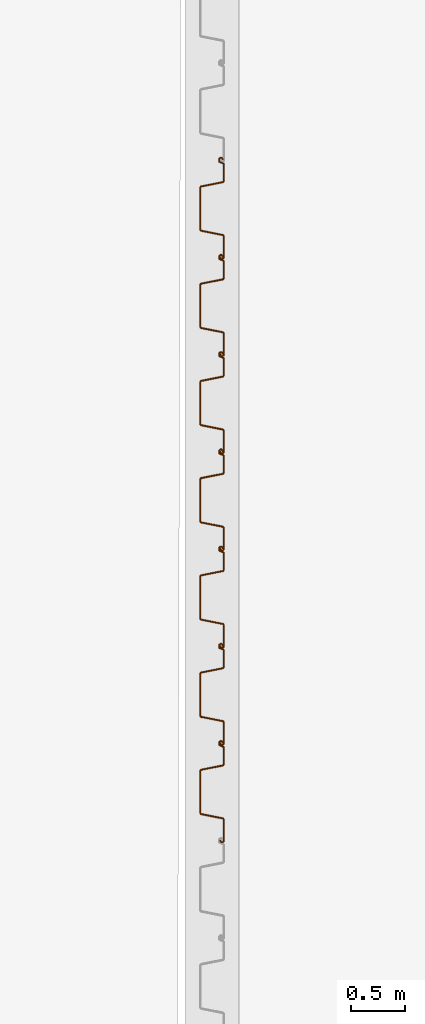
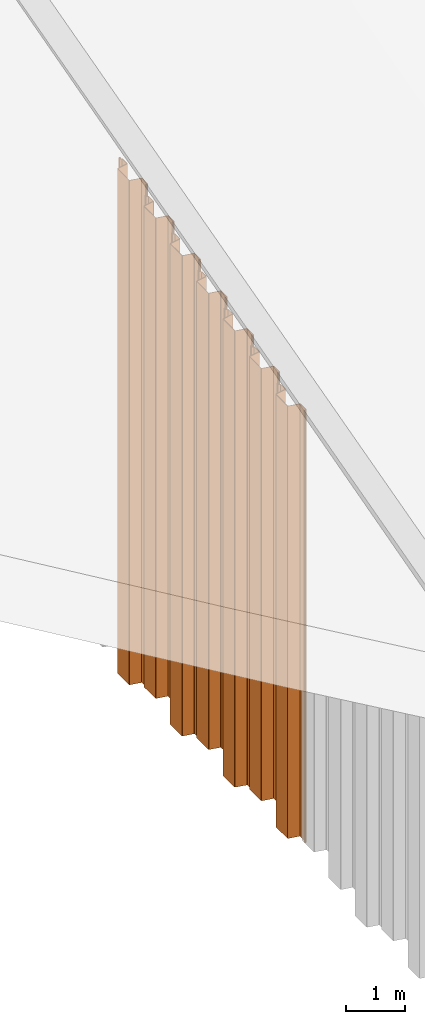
# One storey, part 8 of 32: 7 proxies.
"""IFC2X3 building model written with IfcOpenShell, lengths in millimetres."""

from ifc_helpers import new_model, entity, si_unit, converted_unit, derived_unit, direction, frame, frame_2d, origin, place, context, subcontext, project, spatial, polyline, circle_curve, parameter, trimmed, segment, composite_curve, outline, extrude, source, transform, mapped, type_object, type_shapes, element, save


model = new_model("IFC2X3")

# Units and contexts
model_context = context("Model", 3, precision=0.01, world=origin(), true_north=direction((6.12303176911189e-17, 1.0)))
body_context = subcontext(model_context, "Body", "Model", "MODEL_VIEW")
ifc_project = project(units=[si_unit("LENGTHUNIT", "METRE", prefix="MILLI"), si_unit("AREAUNIT", "SQUARE_METRE"), si_unit("VOLUMEUNIT", "CUBIC_METRE"), converted_unit("PLANEANGLEUNIT", "DEGREE", entity("IfcRatioMeasure", 0.0174532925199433), si_unit("PLANEANGLEUNIT", "RADIAN"), dimensions=[0, 0, 0, 0, 0, 0, 0]), si_unit("MASSUNIT", "GRAM", prefix="KILO"), derived_unit("MASSDENSITYUNIT", [(si_unit("MASSUNIT", "GRAM", prefix="KILO"), 1), (si_unit("LENGTHUNIT", "METRE"), -3)]), si_unit("TIMEUNIT", "SECOND"), si_unit("FREQUENCYUNIT", "HERTZ"), si_unit("THERMODYNAMICTEMPERATUREUNIT", "DEGREE_CELSIUS"), derived_unit("THERMALTRANSMITTANCEUNIT", [(si_unit("MASSUNIT", "GRAM", prefix="KILO"), 1), (si_unit("THERMODYNAMICTEMPERATUREUNIT", "KELVIN"), -1), (si_unit("TIMEUNIT", "SECOND"), -3)]), derived_unit("VOLUMETRICFLOWRATEUNIT", [(si_unit("LENGTHUNIT", "METRE"), 3), (si_unit("TIMEUNIT", "SECOND"), -1)]), si_unit("ELECTRICCURRENTUNIT", "AMPERE"), si_unit("ELECTRICVOLTAGEUNIT", "VOLT"), si_unit("POWERUNIT", "WATT"), si_unit("FORCEUNIT", "NEWTON", prefix="KILO"), si_unit("ILLUMINANCEUNIT", "LUX"), si_unit("LUMINOUSFLUXUNIT", "LUMEN"), si_unit("LUMINOUSINTENSITYUNIT", "CANDELA"), derived_unit("USERDEFINED", [(si_unit("MASSUNIT", "GRAM", prefix="KILO"), -1), (si_unit("LENGTHUNIT", "METRE"), -2), (si_unit("TIMEUNIT", "SECOND"), 3), (si_unit("LUMINOUSFLUXUNIT", "LUMEN"), 1)]), derived_unit("LINEARVELOCITYUNIT", [(si_unit("LENGTHUNIT", "METRE"), 1), (si_unit("TIMEUNIT", "SECOND"), -1)]), si_unit("PRESSUREUNIT", "PASCAL"), derived_unit("USERDEFINED", [(si_unit("LENGTHUNIT", "METRE"), -2), (si_unit("MASSUNIT", "GRAM", prefix="KILO"), 1), (si_unit("TIMEUNIT", "SECOND"), -2)])], contexts=[model_context])

# Site, building, storey
site_placement = place(None, origin())
site = spatial("IfcSite", under=ifc_project, at=site_placement, Name="Default", CompositionType="ELEMENT")
building_placement = place(site_placement, origin())
building = spatial("IfcBuilding", under=site, at=building_placement, CompositionType="ELEMENT")
storey_placement = place(building_placement, origin())
storey = spatial("IfcBuildingStorey", under=building, at=storey_placement, Name="矢板", CompositionType="ELEMENT", Elevation=0.0)

# Proxies
building_element_proxy_type_1 = type_object("IfcBuildingElementProxyType", Name="鋼矢板10H型", PredefinedType="NOTDEFINED")
shared_shape_1 = source(origin(), body_context, "Body", "SweptSolid", [
    extrude(outline(composite_curve([segment(trimmed(circle_curve(frame_2d((85.3662976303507, 306.644432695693), x_axis=(0.422618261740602, 0.906307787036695)), 13.885714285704), [parameter(24.9999999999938)], [parameter(90.0000000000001)], True, "PARAMETER"), True, "CONTINUOUS"), segment(polyline([(72.7815666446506, 312.512789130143), (9.8129512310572, 177.476157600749)]), True, "CONTINUOUS"), segment(trimmed(circle_curve(frame_2d((29.3891994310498, 168.347603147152), x_axis=(0.422618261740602, 0.906307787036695)), 21.6), [parameter(90.0000000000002)], [parameter(168.69006752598)], True, "PARAMETER"), True, "CONTINUOUS"), segment(polyline([(16.598697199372, 150.941769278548), (175.329723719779, 34.2998683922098)]), True, "CONTINUOUS"), segment(trimmed(circle_curve(frame_2d((168.93447260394, 25.596951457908), x_axis=(0.422618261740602, 0.906307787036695)), 10.7999999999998), [parameter(270.0)], [parameter(348.690067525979)], True, "PARAMETER"), False, "CONTINUOUS"), segment(polyline([(178.722596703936, 21.0326742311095), (18.2974003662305, -323.000269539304)]), True, "CONTINUOUS"), segment(trimmed(circle_curve(frame_2d((8.50927626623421, -318.435992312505), x_axis=(0.422618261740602, 0.906307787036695)), 10.8), [parameter(191.30993247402)], [parameter(269.999999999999)], True, "PARAMETER"), False, "CONTINUOUS"), segment(polyline([(5.95324328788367, -328.929166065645), (-185.429973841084, -282.310113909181)]), True, "CONTINUOUS"), segment(trimmed(circle_curve(frame_2d((-190.542039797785, -303.296461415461), x_axis=(0.422618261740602, 0.906307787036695)), 21.6000000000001), [parameter(11.3099324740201)], [parameter(90.0000000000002)], True, "PARAMETER"), True, "CONTINUOUS"), segment(polyline([(-210.118287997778, -294.167906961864), (-290.330886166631, -466.184378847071)]), True, "CONTINUOUS"), segment(trimmed(circle_curve(frame_2d((-270.754637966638, -475.312933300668), x_axis=(0.422618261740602, 0.906307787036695)), 21.6), [parameter(90.0000000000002)], [parameter(269.999999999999)], True, "PARAMETER"), True, "CONTINUOUS"), segment(polyline([(-251.178389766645, -484.441487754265), (-249.065298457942, -479.909948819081)]), True, "CONTINUOUS"), segment(polyline([(-249.065298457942, -479.909948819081), (-258.853422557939, -475.345671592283)]), True, "CONTINUOUS"), segment(polyline([(-258.853422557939, -475.345671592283), (-260.966513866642, -479.877210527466)]), True, "CONTINUOUS"), segment(trimmed(circle_curve(frame_2d((-270.754637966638, -475.312933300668), x_axis=(0.422618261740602, 0.906307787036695)), 10.8), [parameter(90.0000000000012)], [parameter(270.0)], True, "PARAMETER"), False, "CONTINUOUS"), segment(polyline([(-280.542762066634, -470.748656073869), (-200.330163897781, -298.732184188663)]), True, "CONTINUOUS"), segment(trimmed(circle_curve(frame_2d((-190.542039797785, -303.296461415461), x_axis=(0.422618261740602, 0.906307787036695)), 10.8), [parameter(11.3099324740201)], [parameter(89.9999999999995)], True, "PARAMETER"), False, "CONTINUOUS"), segment(polyline([(-187.986006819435, -292.803287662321), (3.39721030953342, -339.422339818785)]), True, "CONTINUOUS"), segment(trimmed(circle_curve(frame_2d((8.50927626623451, -318.435992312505), x_axis=(0.422618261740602, 0.906307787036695)), 21.6), [parameter(191.30993247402)], [parameter(270.0)], True, "PARAMETER"), True, "CONTINUOUS"), segment(polyline([(28.0855244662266, -327.564546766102), (188.510720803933, 16.4683970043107)]), True, "CONTINUOUS"), segment(trimmed(circle_curve(frame_2d((168.93447260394, 25.5969514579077), x_axis=(0.422618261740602, 0.906307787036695)), 21.6), [parameter(270.0)], [parameter(348.69006752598)], True, "PARAMETER"), True, "CONTINUOUS"), segment(polyline([(181.724974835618, 43.0027853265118), (22.9939483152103, 159.644686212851)]), True, "CONTINUOUS"), segment(trimmed(circle_curve(frame_2d((29.3891994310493, 168.347603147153), x_axis=(0.422618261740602, 0.906307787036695)), 10.7999999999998), [parameter(89.9999999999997)], [parameter(168.690067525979)], True, "PARAMETER"), False, "CONTINUOUS"), segment(polyline([(19.6010753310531, 172.911880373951), (82.5696907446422, 307.948511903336)]), True, "CONTINUOUS"), segment(trimmed(circle_curve(frame_2d((85.3662976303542, 306.64443269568), x_axis=(0.422618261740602, 0.906307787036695)), 3.08571428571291), [parameter(25.0000000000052)], [parameter(90.0000000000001)], True, "PARAMETER"), False, "CONTINUOUS"), segment(polyline([(85.3662976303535, 309.730146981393), (122.220231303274, 309.730146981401)]), True, "CONTINUOUS"), segment(trimmed(circle_curve(frame_2d((122.220231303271, 323.615861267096), x_axis=(0.422618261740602, 0.906307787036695)), 13.8857142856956), [parameter(205.000000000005)], [parameter(270.0)], True, "PARAMETER"), True, "CONTINUOUS"), segment(polyline([(134.804962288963, 317.747504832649), (141.079261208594, 331.202782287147)]), True, "CONTINUOUS"), segment(trimmed(circle_curve(frame_2d((121.503013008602, 340.331336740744), x_axis=(0.422618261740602, 0.906307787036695)), 21.6), [parameter(270.0)], [parameter(90.0000000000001)], True, "PARAMETER"), True, "CONTINUOUS"), segment(polyline([(101.926764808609, 349.459891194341), (99.8136734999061, 344.928352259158)]), True, "CONTINUOUS"), segment(polyline([(99.8136734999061, 344.928352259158), (109.601797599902, 340.364075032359)]), True, "CONTINUOUS"), segment(polyline([(109.601797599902, 340.364075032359), (111.714888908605, 344.895613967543)]), True, "CONTINUOUS"), segment(trimmed(circle_curve(frame_2d((121.503013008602, 340.331336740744), x_axis=(0.422618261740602, 0.906307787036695)), 10.8), [parameter(270.0)], [parameter(89.9999999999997)], True, "PARAMETER"), False, "CONTINUOUS"), segment(polyline([(131.291137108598, 335.767059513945), (125.01683818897, 322.311782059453)]), True, "CONTINUOUS"), segment(trimmed(circle_curve(frame_2d((122.220231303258, 323.615861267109), x_axis=(0.422618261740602, 0.906307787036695)), 3.08571428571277), [parameter(204.999999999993)], [parameter(270.0)], True, "PARAMETER"), False, "CONTINUOUS"), segment(polyline([(122.220231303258, 320.530146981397), (85.3662976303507, 320.530146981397)]), True, "CONTINUOUS")], self_intersect=False)), frame((95.205667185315, -48.8888888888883, -9000.0), z_axis=(0.0, 0.0, -1.0), x_axis=(0.4226182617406, 0.906307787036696, 0.0)), (0.0, 0.0, -1.0), 9000.0),
])
type_shapes(building_element_proxy_type_1, [shared_shape_1])
for number, where, z_axis, x_axis in (
    (1, (-128208.0, -12349.0, 11317.0), (0.0, 0.0, 1.0), (0.0, 1.0, 0.0)),
    (2, (-128208.0, -13249.0, 11080.0), (0.0, 0.0, 1.0), (0.0, 1.0, 0.0)),
):
    element("IfcBuildingElementProxy", number, at=place(storey_placement, frame(where, z_axis=z_axis, x_axis=x_axis)), inside=storey, type_object=building_element_proxy_type_1, Name="鋼矢板10H型:鋼矢板10H型", ObjectType="鋼矢板10H型:鋼矢板10H型", context=body_context, shape_type="MappedRepresentation", body=[
        mapped(shared_shape_1, transform((0.0, 0.0, 0.0), scale=1.0)),
    ])
building_element_proxy_type_2 = type_object("IfcBuildingElementProxyType", Name="鋼矢板10H型", PredefinedType="NOTDEFINED")
shared_shape_2 = source(origin(), body_context, "Body", "SweptSolid", [
    extrude(outline(composite_curve([segment(trimmed(circle_curve(frame_2d((85.3662976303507, 306.644432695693), x_axis=(0.422618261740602, 0.906307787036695)), 13.885714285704), [parameter(24.9999999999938)], [parameter(90.0000000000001)], True, "PARAMETER"), True, "CONTINUOUS"), segment(polyline([(72.7815666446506, 312.512789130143), (9.8129512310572, 177.476157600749)]), True, "CONTINUOUS"), segment(trimmed(circle_curve(frame_2d((29.3891994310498, 168.347603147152), x_axis=(0.422618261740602, 0.906307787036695)), 21.6), [parameter(90.0000000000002)], [parameter(168.69006752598)], True, "PARAMETER"), True, "CONTINUOUS"), segment(polyline([(16.598697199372, 150.941769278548), (175.329723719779, 34.2998683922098)]), True, "CONTINUOUS"), segment(trimmed(circle_curve(frame_2d((168.93447260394, 25.596951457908), x_axis=(0.422618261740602, 0.906307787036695)), 10.7999999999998), [parameter(270.0)], [parameter(348.690067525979)], True, "PARAMETER"), False, "CONTINUOUS"), segment(polyline([(178.722596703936, 21.0326742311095), (18.2974003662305, -323.000269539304)]), True, "CONTINUOUS"), segment(trimmed(circle_curve(frame_2d((8.50927626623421, -318.435992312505), x_axis=(0.422618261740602, 0.906307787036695)), 10.8), [parameter(191.30993247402)], [parameter(269.999999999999)], True, "PARAMETER"), False, "CONTINUOUS"), segment(polyline([(5.95324328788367, -328.929166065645), (-185.429973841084, -282.310113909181)]), True, "CONTINUOUS"), segment(trimmed(circle_curve(frame_2d((-190.542039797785, -303.296461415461), x_axis=(0.422618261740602, 0.906307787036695)), 21.6000000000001), [parameter(11.3099324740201)], [parameter(90.0000000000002)], True, "PARAMETER"), True, "CONTINUOUS"), segment(polyline([(-210.118287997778, -294.167906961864), (-290.330886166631, -466.184378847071)]), True, "CONTINUOUS"), segment(trimmed(circle_curve(frame_2d((-270.754637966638, -475.312933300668), x_axis=(0.422618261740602, 0.906307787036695)), 21.6), [parameter(90.0000000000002)], [parameter(269.999999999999)], True, "PARAMETER"), True, "CONTINUOUS"), segment(polyline([(-251.178389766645, -484.441487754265), (-249.065298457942, -479.909948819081)]), True, "CONTINUOUS"), segment(polyline([(-249.065298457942, -479.909948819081), (-258.853422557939, -475.345671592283)]), True, "CONTINUOUS"), segment(polyline([(-258.853422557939, -475.345671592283), (-260.966513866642, -479.877210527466)]), True, "CONTINUOUS"), segment(trimmed(circle_curve(frame_2d((-270.754637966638, -475.312933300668), x_axis=(0.422618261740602, 0.906307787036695)), 10.8), [parameter(90.0000000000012)], [parameter(270.0)], True, "PARAMETER"), False, "CONTINUOUS"), segment(polyline([(-280.542762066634, -470.748656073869), (-200.330163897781, -298.732184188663)]), True, "CONTINUOUS"), segment(trimmed(circle_curve(frame_2d((-190.542039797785, -303.296461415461), x_axis=(0.422618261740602, 0.906307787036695)), 10.8), [parameter(11.3099324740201)], [parameter(89.9999999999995)], True, "PARAMETER"), False, "CONTINUOUS"), segment(polyline([(-187.986006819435, -292.803287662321), (3.39721030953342, -339.422339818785)]), True, "CONTINUOUS"), segment(trimmed(circle_curve(frame_2d((8.50927626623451, -318.435992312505), x_axis=(0.422618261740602, 0.906307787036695)), 21.6), [parameter(191.30993247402)], [parameter(270.0)], True, "PARAMETER"), True, "CONTINUOUS"), segment(polyline([(28.0855244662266, -327.564546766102), (188.510720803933, 16.4683970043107)]), True, "CONTINUOUS"), segment(trimmed(circle_curve(frame_2d((168.93447260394, 25.5969514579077), x_axis=(0.422618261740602, 0.906307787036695)), 21.6), [parameter(270.0)], [parameter(348.69006752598)], True, "PARAMETER"), True, "CONTINUOUS"), segment(polyline([(181.724974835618, 43.0027853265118), (22.9939483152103, 159.644686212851)]), True, "CONTINUOUS"), segment(trimmed(circle_curve(frame_2d((29.3891994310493, 168.347603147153), x_axis=(0.422618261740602, 0.906307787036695)), 10.7999999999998), [parameter(89.9999999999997)], [parameter(168.690067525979)], True, "PARAMETER"), False, "CONTINUOUS"), segment(polyline([(19.6010753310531, 172.911880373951), (82.5696907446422, 307.948511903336)]), True, "CONTINUOUS"), segment(trimmed(circle_curve(frame_2d((85.3662976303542, 306.64443269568), x_axis=(0.422618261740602, 0.906307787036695)), 3.08571428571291), [parameter(25.0000000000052)], [parameter(90.0000000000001)], True, "PARAMETER"), False, "CONTINUOUS"), segment(polyline([(85.3662976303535, 309.730146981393), (122.220231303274, 309.730146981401)]), True, "CONTINUOUS"), segment(trimmed(circle_curve(frame_2d((122.220231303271, 323.615861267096), x_axis=(0.422618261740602, 0.906307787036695)), 13.8857142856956), [parameter(205.000000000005)], [parameter(270.0)], True, "PARAMETER"), True, "CONTINUOUS"), segment(polyline([(134.804962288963, 317.747504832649), (141.079261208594, 331.202782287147)]), True, "CONTINUOUS"), segment(trimmed(circle_curve(frame_2d((121.503013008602, 340.331336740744), x_axis=(0.422618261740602, 0.906307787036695)), 21.6), [parameter(270.0)], [parameter(90.0000000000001)], True, "PARAMETER"), True, "CONTINUOUS"), segment(polyline([(101.926764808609, 349.459891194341), (99.8136734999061, 344.928352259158)]), True, "CONTINUOUS"), segment(polyline([(99.8136734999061, 344.928352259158), (109.601797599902, 340.364075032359)]), True, "CONTINUOUS"), segment(polyline([(109.601797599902, 340.364075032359), (111.714888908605, 344.895613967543)]), True, "CONTINUOUS"), segment(trimmed(circle_curve(frame_2d((121.503013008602, 340.331336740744), x_axis=(0.422618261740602, 0.906307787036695)), 10.8), [parameter(270.0)], [parameter(89.9999999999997)], True, "PARAMETER"), False, "CONTINUOUS"), segment(polyline([(131.291137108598, 335.767059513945), (125.01683818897, 322.311782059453)]), True, "CONTINUOUS"), segment(trimmed(circle_curve(frame_2d((122.220231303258, 323.615861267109), x_axis=(0.422618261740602, 0.906307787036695)), 3.08571428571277), [parameter(204.999999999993)], [parameter(270.0)], True, "PARAMETER"), False, "CONTINUOUS"), segment(polyline([(122.220231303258, 320.530146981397), (85.3662976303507, 320.530146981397)]), True, "CONTINUOUS")], self_intersect=False)), frame((95.205667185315, -48.8888888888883, -9500.0), z_axis=(0.0, 0.0, -1.0), x_axis=(0.4226182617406, 0.906307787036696, 0.0)), (0.0, 0.0, -1.0), 9500.0),
])
type_shapes(building_element_proxy_type_2, [shared_shape_2])
for number, where, z_axis, x_axis in (
    (3, (-128208.0, -10549.0, 11791.0), (0.0, 0.0, 1.0), (0.0, 1.0, 0.0)),
    (4, (-128208.0, -11449.0, 11554.0), (0.0, 0.0, 1.0), (0.0, 1.0, 0.0)),
):
    element("IfcBuildingElementProxy", number, at=place(storey_placement, frame(where, z_axis=z_axis, x_axis=x_axis)), inside=storey, type_object=building_element_proxy_type_2, Name="鋼矢板10H型:鋼矢板10H型", ObjectType="鋼矢板10H型:鋼矢板10H型", context=body_context, shape_type="MappedRepresentation", body=[
        mapped(shared_shape_2, transform((0.0, 0.0, 0.0), scale=1.0)),
    ])
building_element_proxy_type_3 = type_object("IfcBuildingElementProxyType", Name="鋼矢板10H型", PredefinedType="NOTDEFINED")
shared_shape_3 = source(origin(), body_context, "Body", "SweptSolid", [
    extrude(outline(composite_curve([segment(trimmed(circle_curve(frame_2d((85.3662976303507, 306.644432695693), x_axis=(0.422618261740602, 0.906307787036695)), 13.885714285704), [parameter(24.9999999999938)], [parameter(90.0000000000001)], True, "PARAMETER"), True, "CONTINUOUS"), segment(polyline([(72.7815666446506, 312.512789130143), (9.8129512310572, 177.476157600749)]), True, "CONTINUOUS"), segment(trimmed(circle_curve(frame_2d((29.3891994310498, 168.347603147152), x_axis=(0.422618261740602, 0.906307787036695)), 21.6), [parameter(90.0000000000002)], [parameter(168.69006752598)], True, "PARAMETER"), True, "CONTINUOUS"), segment(polyline([(16.598697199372, 150.941769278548), (175.329723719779, 34.2998683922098)]), True, "CONTINUOUS"), segment(trimmed(circle_curve(frame_2d((168.93447260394, 25.596951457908), x_axis=(0.422618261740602, 0.906307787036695)), 10.7999999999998), [parameter(270.0)], [parameter(348.690067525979)], True, "PARAMETER"), False, "CONTINUOUS"), segment(polyline([(178.722596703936, 21.0326742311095), (18.2974003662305, -323.000269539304)]), True, "CONTINUOUS"), segment(trimmed(circle_curve(frame_2d((8.50927626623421, -318.435992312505), x_axis=(0.422618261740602, 0.906307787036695)), 10.8), [parameter(191.30993247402)], [parameter(269.999999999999)], True, "PARAMETER"), False, "CONTINUOUS"), segment(polyline([(5.95324328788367, -328.929166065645), (-185.429973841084, -282.310113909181)]), True, "CONTINUOUS"), segment(trimmed(circle_curve(frame_2d((-190.542039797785, -303.296461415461), x_axis=(0.422618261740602, 0.906307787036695)), 21.6000000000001), [parameter(11.3099324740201)], [parameter(90.0000000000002)], True, "PARAMETER"), True, "CONTINUOUS"), segment(polyline([(-210.118287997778, -294.167906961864), (-290.330886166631, -466.184378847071)]), True, "CONTINUOUS"), segment(trimmed(circle_curve(frame_2d((-270.754637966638, -475.312933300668), x_axis=(0.422618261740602, 0.906307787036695)), 21.6), [parameter(90.0000000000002)], [parameter(269.999999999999)], True, "PARAMETER"), True, "CONTINUOUS"), segment(polyline([(-251.178389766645, -484.441487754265), (-249.065298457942, -479.909948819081)]), True, "CONTINUOUS"), segment(polyline([(-249.065298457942, -479.909948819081), (-258.853422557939, -475.345671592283)]), True, "CONTINUOUS"), segment(polyline([(-258.853422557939, -475.345671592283), (-260.966513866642, -479.877210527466)]), True, "CONTINUOUS"), segment(trimmed(circle_curve(frame_2d((-270.754637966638, -475.312933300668), x_axis=(0.422618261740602, 0.906307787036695)), 10.8), [parameter(90.0000000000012)], [parameter(270.0)], True, "PARAMETER"), False, "CONTINUOUS"), segment(polyline([(-280.542762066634, -470.748656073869), (-200.330163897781, -298.732184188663)]), True, "CONTINUOUS"), segment(trimmed(circle_curve(frame_2d((-190.542039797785, -303.296461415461), x_axis=(0.422618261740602, 0.906307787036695)), 10.8), [parameter(11.3099324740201)], [parameter(89.9999999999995)], True, "PARAMETER"), False, "CONTINUOUS"), segment(polyline([(-187.986006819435, -292.803287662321), (3.39721030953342, -339.422339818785)]), True, "CONTINUOUS"), segment(trimmed(circle_curve(frame_2d((8.50927626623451, -318.435992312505), x_axis=(0.422618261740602, 0.906307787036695)), 21.6), [parameter(191.30993247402)], [parameter(270.0)], True, "PARAMETER"), True, "CONTINUOUS"), segment(polyline([(28.0855244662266, -327.564546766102), (188.510720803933, 16.4683970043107)]), True, "CONTINUOUS"), segment(trimmed(circle_curve(frame_2d((168.93447260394, 25.5969514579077), x_axis=(0.422618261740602, 0.906307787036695)), 21.6), [parameter(270.0)], [parameter(348.69006752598)], True, "PARAMETER"), True, "CONTINUOUS"), segment(polyline([(181.724974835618, 43.0027853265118), (22.9939483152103, 159.644686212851)]), True, "CONTINUOUS"), segment(trimmed(circle_curve(frame_2d((29.3891994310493, 168.347603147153), x_axis=(0.422618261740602, 0.906307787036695)), 10.7999999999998), [parameter(89.9999999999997)], [parameter(168.690067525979)], True, "PARAMETER"), False, "CONTINUOUS"), segment(polyline([(19.6010753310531, 172.911880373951), (82.5696907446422, 307.948511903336)]), True, "CONTINUOUS"), segment(trimmed(circle_curve(frame_2d((85.3662976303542, 306.64443269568), x_axis=(0.422618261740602, 0.906307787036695)), 3.08571428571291), [parameter(25.0000000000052)], [parameter(90.0000000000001)], True, "PARAMETER"), False, "CONTINUOUS"), segment(polyline([(85.3662976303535, 309.730146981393), (122.220231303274, 309.730146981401)]), True, "CONTINUOUS"), segment(trimmed(circle_curve(frame_2d((122.220231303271, 323.615861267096), x_axis=(0.422618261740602, 0.906307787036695)), 13.8857142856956), [parameter(205.000000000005)], [parameter(270.0)], True, "PARAMETER"), True, "CONTINUOUS"), segment(polyline([(134.804962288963, 317.747504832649), (141.079261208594, 331.202782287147)]), True, "CONTINUOUS"), segment(trimmed(circle_curve(frame_2d((121.503013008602, 340.331336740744), x_axis=(0.422618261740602, 0.906307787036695)), 21.6), [parameter(270.0)], [parameter(90.0000000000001)], True, "PARAMETER"), True, "CONTINUOUS"), segment(polyline([(101.926764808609, 349.459891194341), (99.8136734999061, 344.928352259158)]), True, "CONTINUOUS"), segment(polyline([(99.8136734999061, 344.928352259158), (109.601797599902, 340.364075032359)]), True, "CONTINUOUS"), segment(polyline([(109.601797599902, 340.364075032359), (111.714888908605, 344.895613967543)]), True, "CONTINUOUS"), segment(trimmed(circle_curve(frame_2d((121.503013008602, 340.331336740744), x_axis=(0.422618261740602, 0.906307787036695)), 10.8), [parameter(270.0)], [parameter(89.9999999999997)], True, "PARAMETER"), False, "CONTINUOUS"), segment(polyline([(131.291137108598, 335.767059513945), (125.01683818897, 322.311782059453)]), True, "CONTINUOUS"), segment(trimmed(circle_curve(frame_2d((122.220231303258, 323.615861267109), x_axis=(0.422618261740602, 0.906307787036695)), 3.08571428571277), [parameter(204.999999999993)], [parameter(270.0)], True, "PARAMETER"), False, "CONTINUOUS"), segment(polyline([(122.220231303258, 320.530146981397), (85.3662976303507, 320.530146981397)]), True, "CONTINUOUS")], self_intersect=False)), frame((95.205667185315, -48.8888888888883, -10000.0), z_axis=(0.0, 0.0, -1.0), x_axis=(0.4226182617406, 0.906307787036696, 0.0)), (0.0, 0.0, -1.0), 10000.0),
])
type_shapes(building_element_proxy_type_3, [shared_shape_3])
for number, where, z_axis, x_axis in (
    (5, (-128208.0, -8749.0, 12265.0), (0.0, 0.0, 1.0), (0.0, 1.0, 0.0)),
    (6, (-128208.0, -9649.0, 12028.0), (0.0, 0.0, 1.0), (0.0, 1.0, 0.0)),
):
    element("IfcBuildingElementProxy", number, at=place(storey_placement, frame(where, z_axis=z_axis, x_axis=x_axis)), inside=storey, type_object=building_element_proxy_type_3, Name="鋼矢板10H型:鋼矢板10H型", ObjectType="鋼矢板10H型:鋼矢板10H型", context=body_context, shape_type="MappedRepresentation", body=[
        mapped(shared_shape_3, transform((0.0, 0.0, 0.0), scale=1.0)),
    ])
building_element_proxy_type_4 = type_object("IfcBuildingElementProxyType", Name="鋼矢板10H型", PredefinedType="NOTDEFINED")
shared_shape_4 = source(origin(), body_context, "Body", "SweptSolid", [
    extrude(outline(composite_curve([segment(trimmed(circle_curve(frame_2d((85.3662976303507, 306.644432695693), x_axis=(0.422618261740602, 0.906307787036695)), 13.885714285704), [parameter(24.9999999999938)], [parameter(90.0000000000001)], True, "PARAMETER"), True, "CONTINUOUS"), segment(polyline([(72.7815666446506, 312.512789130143), (9.8129512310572, 177.476157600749)]), True, "CONTINUOUS"), segment(trimmed(circle_curve(frame_2d((29.3891994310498, 168.347603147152), x_axis=(0.422618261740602, 0.906307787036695)), 21.6), [parameter(90.0000000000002)], [parameter(168.69006752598)], True, "PARAMETER"), True, "CONTINUOUS"), segment(polyline([(16.598697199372, 150.941769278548), (175.329723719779, 34.2998683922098)]), True, "CONTINUOUS"), segment(trimmed(circle_curve(frame_2d((168.93447260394, 25.596951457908), x_axis=(0.422618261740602, 0.906307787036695)), 10.7999999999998), [parameter(270.0)], [parameter(348.690067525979)], True, "PARAMETER"), False, "CONTINUOUS"), segment(polyline([(178.722596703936, 21.0326742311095), (18.2974003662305, -323.000269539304)]), True, "CONTINUOUS"), segment(trimmed(circle_curve(frame_2d((8.50927626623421, -318.435992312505), x_axis=(0.422618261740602, 0.906307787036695)), 10.8), [parameter(191.30993247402)], [parameter(269.999999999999)], True, "PARAMETER"), False, "CONTINUOUS"), segment(polyline([(5.95324328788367, -328.929166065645), (-185.429973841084, -282.310113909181)]), True, "CONTINUOUS"), segment(trimmed(circle_curve(frame_2d((-190.542039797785, -303.296461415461), x_axis=(0.422618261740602, 0.906307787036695)), 21.6000000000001), [parameter(11.3099324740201)], [parameter(90.0000000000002)], True, "PARAMETER"), True, "CONTINUOUS"), segment(polyline([(-210.118287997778, -294.167906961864), (-290.330886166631, -466.184378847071)]), True, "CONTINUOUS"), segment(trimmed(circle_curve(frame_2d((-270.754637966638, -475.312933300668), x_axis=(0.422618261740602, 0.906307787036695)), 21.6), [parameter(90.0000000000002)], [parameter(269.999999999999)], True, "PARAMETER"), True, "CONTINUOUS"), segment(polyline([(-251.178389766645, -484.441487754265), (-249.065298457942, -479.909948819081)]), True, "CONTINUOUS"), segment(polyline([(-249.065298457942, -479.909948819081), (-258.853422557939, -475.345671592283)]), True, "CONTINUOUS"), segment(polyline([(-258.853422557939, -475.345671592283), (-260.966513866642, -479.877210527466)]), True, "CONTINUOUS"), segment(trimmed(circle_curve(frame_2d((-270.754637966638, -475.312933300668), x_axis=(0.422618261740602, 0.906307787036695)), 10.8), [parameter(90.0000000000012)], [parameter(270.0)], True, "PARAMETER"), False, "CONTINUOUS"), segment(polyline([(-280.542762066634, -470.748656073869), (-200.330163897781, -298.732184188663)]), True, "CONTINUOUS"), segment(trimmed(circle_curve(frame_2d((-190.542039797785, -303.296461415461), x_axis=(0.422618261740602, 0.906307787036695)), 10.8), [parameter(11.3099324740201)], [parameter(89.9999999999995)], True, "PARAMETER"), False, "CONTINUOUS"), segment(polyline([(-187.986006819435, -292.803287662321), (3.39721030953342, -339.422339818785)]), True, "CONTINUOUS"), segment(trimmed(circle_curve(frame_2d((8.50927626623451, -318.435992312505), x_axis=(0.422618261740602, 0.906307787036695)), 21.6), [parameter(191.30993247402)], [parameter(270.0)], True, "PARAMETER"), True, "CONTINUOUS"), segment(polyline([(28.0855244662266, -327.564546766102), (188.510720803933, 16.4683970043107)]), True, "CONTINUOUS"), segment(trimmed(circle_curve(frame_2d((168.93447260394, 25.5969514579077), x_axis=(0.422618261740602, 0.906307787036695)), 21.6), [parameter(270.0)], [parameter(348.69006752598)], True, "PARAMETER"), True, "CONTINUOUS"), segment(polyline([(181.724974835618, 43.0027853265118), (22.9939483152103, 159.644686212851)]), True, "CONTINUOUS"), segment(trimmed(circle_curve(frame_2d((29.3891994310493, 168.347603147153), x_axis=(0.422618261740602, 0.906307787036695)), 10.7999999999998), [parameter(89.9999999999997)], [parameter(168.690067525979)], True, "PARAMETER"), False, "CONTINUOUS"), segment(polyline([(19.6010753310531, 172.911880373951), (82.5696907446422, 307.948511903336)]), True, "CONTINUOUS"), segment(trimmed(circle_curve(frame_2d((85.3662976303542, 306.64443269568), x_axis=(0.422618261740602, 0.906307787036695)), 3.08571428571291), [parameter(25.0000000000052)], [parameter(90.0000000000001)], True, "PARAMETER"), False, "CONTINUOUS"), segment(polyline([(85.3662976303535, 309.730146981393), (122.220231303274, 309.730146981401)]), True, "CONTINUOUS"), segment(trimmed(circle_curve(frame_2d((122.220231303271, 323.615861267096), x_axis=(0.422618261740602, 0.906307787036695)), 13.8857142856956), [parameter(205.000000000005)], [parameter(270.0)], True, "PARAMETER"), True, "CONTINUOUS"), segment(polyline([(134.804962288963, 317.747504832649), (141.079261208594, 331.202782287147)]), True, "CONTINUOUS"), segment(trimmed(circle_curve(frame_2d((121.503013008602, 340.331336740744), x_axis=(0.422618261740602, 0.906307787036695)), 21.6), [parameter(270.0)], [parameter(90.0000000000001)], True, "PARAMETER"), True, "CONTINUOUS"), segment(polyline([(101.926764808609, 349.459891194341), (99.8136734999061, 344.928352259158)]), True, "CONTINUOUS"), segment(polyline([(99.8136734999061, 344.928352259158), (109.601797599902, 340.364075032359)]), True, "CONTINUOUS"), segment(polyline([(109.601797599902, 340.364075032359), (111.714888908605, 344.895613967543)]), True, "CONTINUOUS"), segment(trimmed(circle_curve(frame_2d((121.503013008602, 340.331336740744), x_axis=(0.422618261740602, 0.906307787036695)), 10.8), [parameter(270.0)], [parameter(89.9999999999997)], True, "PARAMETER"), False, "CONTINUOUS"), segment(polyline([(131.291137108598, 335.767059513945), (125.01683818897, 322.311782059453)]), True, "CONTINUOUS"), segment(trimmed(circle_curve(frame_2d((122.220231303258, 323.615861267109), x_axis=(0.422618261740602, 0.906307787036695)), 3.08571428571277), [parameter(204.999999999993)], [parameter(270.0)], True, "PARAMETER"), False, "CONTINUOUS"), segment(polyline([(122.220231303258, 320.530146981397), (85.3662976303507, 320.530146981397)]), True, "CONTINUOUS")], self_intersect=False)), frame((95.205667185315, -48.8888888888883, -10500.0), z_axis=(0.0, 0.0, -1.0), x_axis=(0.4226182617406, 0.906307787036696, 0.0)), (0.0, 0.0, -1.0), 10500.0),
])
type_shapes(building_element_proxy_type_4, [shared_shape_4])
proxy_placement = place(storey_placement, frame((-128208.0, -7849.0, 12502.0), z_axis=(0.0, 0.0, 1.0), x_axis=(0.0, 1.0, 0.0)))
element("IfcBuildingElementProxy", 7, at=proxy_placement, inside=storey, type_object=building_element_proxy_type_4, Name="鋼矢板10H型:鋼矢板10H型", ObjectType="鋼矢板10H型:鋼矢板10H型", context=body_context, shape_type="MappedRepresentation", body=[
    mapped(shared_shape_4, transform((0.0, 0.0, 0.0), scale=1.0)),
])

save(model, "model.ifc")
